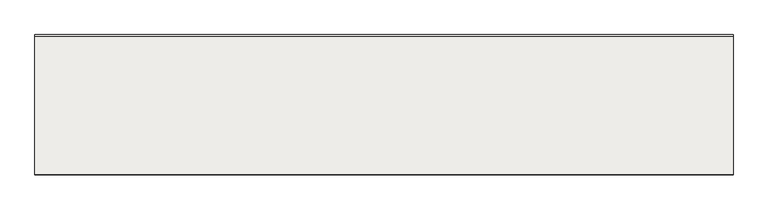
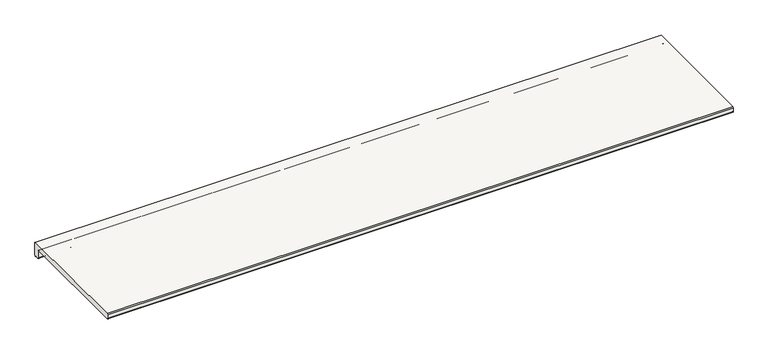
"""IFC4 building model written with IfcOpenShell, lengths in millimetres: slab geometry, ROSA GRES_L62 : Pieza L62_Tresor_Java_Anti-Slip."""

import ifcopenshell
import ifcopenshell.guid

model = None  # the IFC model being written
_history = None  # IfcOwnerHistory: only IFC2X3 demands one
_inside = {}  # id of a spatial element -> (the spatial element, [elements in it])
_under = {}  # id of a project, library or spatial element -> (it, [spatial elements below it])
_declared = {}  # id of a project -> (the project, [libraries it declares])
_typed = {}  # id of a type object -> (the type object, [elements of that type])
_made_of = {}  # id of a material, layer set ... -> (it, [elements and type objects made of it])


def new_model(schema):
    """Start an empty IFC model of exactly this schema.

    Asked for "IFC4X3", IfcOpenShell would pick the latest addendum, in which some entities
    have other attributes; the version numbers below select the first issue.
    IFC2X3 requires an IfcOwnerHistory on every rooted entity: one is made here for all.
    """
    global model, _history
    if schema == "IFC4X3":
        model = ifcopenshell.file(schema_version=(4, 3, 0, 0))
    else:
        model = ifcopenshell.file(schema=schema)
    _inside.clear()
    _under.clear()
    _declared.clear()
    _typed.clear()
    _made_of.clear()
    _history = None
    if model.schema == "IFC2X3":
        org = make("IfcOrganization", Name="unknown")
        user = make(
            "IfcPersonAndOrganization",
            ThePerson=make("IfcPerson", FamilyName="unknown"),
            TheOrganization=org,
        )
        app = make(
            "IfcApplication",
            ApplicationDeveloper=org,
            Version="unknown",
            ApplicationFullName="unknown",
            ApplicationIdentifier="unknown",
        )
        _history = make(
            "IfcOwnerHistory",
            OwningUser=user,
            OwningApplication=app,
            ChangeAction="ADDED",
            CreationDate=0,
        )
    return model


def make(cls, **values):
    """One entity of the class cls with the attributes given. An attribute that is None is left unset."""
    return model.create_entity(
        cls, **{name: value for name, value in values.items() if value is not None}
    )


def rooted(cls, **values):
    """An entity with a GlobalId (a new one), such as an element, a storey or a relation."""
    return make(cls, GlobalId=ifcopenshell.guid.new(), OwnerHistory=_history, **values)


def si_unit(unit_type, name, prefix=None):
    """IfcSIUnit, for example si_unit("LENGTHUNIT", "METRE", prefix="MILLI")."""
    return make("IfcSIUnit", UnitType=unit_type, Prefix=prefix, Name=name)


def assignment(units):
    """IfcUnitAssignment: the units of a project."""
    return None if units is None else make("IfcUnitAssignment", Units=units)


def point(xyz):
    """IfcCartesianPoint."""
    return None if xyz is None else make("IfcCartesianPoint", Coordinates=xyz)


def direction(xyz):
    """IfcDirection."""
    return None if xyz is None else make("IfcDirection", DirectionRatios=xyz)


def frame(location, z_axis=None, x_axis=None):
    """IfcAxis2Placement3D, a coordinate frame: its origin and axes. An axis left out is left unset."""
    return make(
        "IfcAxis2Placement3D",
        Location=point(location),
        Axis=direction(z_axis),
        RefDirection=direction(x_axis),
    )


def frame_2d(location, x_axis=None):
    """IfcAxis2Placement2D, a coordinate frame in the plane: its origin and x axis."""
    return make(
        "IfcAxis2Placement2D", Location=point(location), RefDirection=direction(x_axis)
    )


def origin():
    """The frame at (0, 0, 0) with its axes left unset."""
    return frame((0.0, 0.0, 0.0))


def place(relative_to, where):
    """IfcLocalPlacement: puts the frame where relative to a parent placement (None: the world)."""
    return make(
        "IfcLocalPlacement", PlacementRelTo=relative_to, RelativePlacement=where
    )


def context(
    kind, dimensions, precision=None, world=None, true_north=None, identifier=None
):
    """IfcGeometricRepresentationContext, for example the 3D "Model" context."""
    return make(
        "IfcGeometricRepresentationContext",
        ContextIdentifier=identifier,
        ContextType=kind,
        CoordinateSpaceDimension=dimensions,
        Precision=precision,
        WorldCoordinateSystem=world,
        TrueNorth=true_north,
    )


def project(units=None, contexts=None):
    """IfcProject with its units and contexts."""
    return rooted(
        "IfcProject",
        Name="project",
        RepresentationContexts=contexts,
        UnitsInContext=assignment(units),
    )


def spatial(cls, under=None, at=None, **own):
    """A site, building, storey or space (cls), placed at a placement, below another one or the project."""
    s = rooted(cls, ObjectPlacement=at, **own)
    if under is not None:
        _under.setdefault(under.id(), (under, []))[1].append(s)
    return s


def polyline(points):
    """IfcPolyline through the points."""
    return make("IfcPolyline", Points=[point(p) for p in points])


def circle_curve(where, radius):
    """IfcCircle in the frame where."""
    return make("IfcCircle", Position=where, Radius=radius)


def trimmed(basis, trim1, trim2, sense, master):
    """IfcTrimmedCurve: the piece of a basis curve between two trims."""
    return make(
        "IfcTrimmedCurve",
        BasisCurve=basis,
        Trim1=trim1,
        Trim2=trim2,
        SenseAgreement=sense,
        MasterRepresentation=master,
    )


def segment(curve, same_sense, transition):
    """IfcCompositeCurveSegment."""
    return make(
        "IfcCompositeCurveSegment",
        Transition=transition,
        SameSense=same_sense,
        ParentCurve=curve,
    )


def composite_curve(segments, self_intersect=None):
    """IfcCompositeCurve: segments joined end to end."""
    return make("IfcCompositeCurve", Segments=segments, SelfIntersect=self_intersect)


def outline(outer, holes=None, kind="AREA"):
    """IfcArbitraryClosedProfileDef: a profile drawn as a closed curve; with holes, ...WithVoids."""
    if holes is None:
        return make("IfcArbitraryClosedProfileDef", ProfileType=kind, OuterCurve=outer)
    return make(
        "IfcArbitraryProfileDefWithVoids",
        ProfileType=kind,
        OuterCurve=outer,
        InnerCurves=holes,
    )


def extrude(swept, where, along, depth):
    """IfcExtrudedAreaSolid: the profile swept, set in the frame where, extruded along a direction by depth."""
    return make(
        "IfcExtrudedAreaSolid",
        SweptArea=swept,
        Position=where,
        ExtrudedDirection=direction(along),
        Depth=depth,
    )


def shape(context_of_items, identifier, shape_type, items):
    """IfcShapeRepresentation: the items that make up one representation, for example the "Body"."""
    return make(
        "IfcShapeRepresentation",
        ContextOfItems=context_of_items,
        RepresentationIdentifier=identifier,
        RepresentationType=shape_type,
        Items=items,
    )


def source(mapping_origin, context_of_items, identifier, shape_type, items):
    """IfcRepresentationMap: a shape defined once, which mapped items show again and again."""
    return make(
        "IfcRepresentationMap",
        MappingOrigin=mapping_origin,
        MappedRepresentation=shape(context_of_items, identifier, shape_type, items),
    )


def transform(
    local_origin,
    x_axis=None,
    y_axis=None,
    z_axis=None,
    scale=None,
    scale2=None,
    scale3=None,
    uniform=True,
):
    """IfcCartesianTransformationOperator3D, or its non-uniform kind. x_axis, y_axis, z_axis: its Axis1, 2, 3."""
    if uniform:
        return make(
            "IfcCartesianTransformationOperator3D",
            Axis1=direction(x_axis),
            Axis2=direction(y_axis),
            LocalOrigin=point(local_origin),
            Scale=scale,
            Axis3=direction(z_axis),
        )
    return make(
        "IfcCartesianTransformationOperator3DnonUniform",
        Axis1=direction(x_axis),
        Axis2=direction(y_axis),
        LocalOrigin=point(local_origin),
        Scale=scale,
        Axis3=direction(z_axis),
        Scale2=scale2,
        Scale3=scale3,
    )


def mapped(mapping_source, mapping_target):
    """IfcMappedItem: shows the shape of a source again, moved by a transform."""
    return make(
        "IfcMappedItem", MappingSource=mapping_source, MappingTarget=mapping_target
    )


def made_of(thing, what):
    """Note that an element or type object is made of a material, layer set ...; save() writes the relation."""
    if what is not None:
        _made_of.setdefault(what.id(), (what, []))[1].append(thing)
    return thing


def element(
    cls,
    number,
    at=None,
    inside=None,
    cuts=None,
    type_object=None,
    material=None,
    context=None,
    identifier="Body",
    shape_type=None,
    held_by="IfcProductDefinitionShape",
    body=None,
    shapes=None,
    **own,
):
    """One element of the class cls, such as IfcWall. Its Tag is "e" and its number.

    at: its placement. inside: the storey or other place that contains it. cuts: it is an
    opening in that element (IfcRelVoidsElement). A single representation is given by context,
    identifier, shape_type and body (its items); several are given by shapes. held_by: the class
    of the entity that holds the representations. save() writes the other relations.
    """
    e = rooted(cls, Tag="e%d" % number, ObjectPlacement=at, **own)
    if body is not None:
        shapes = [shape(context, identifier, shape_type, body)]
    if shapes is not None:
        e.Representation = make(held_by, Representations=shapes)
    if inside is not None:
        _inside.setdefault(inside.id(), (inside, []))[1].append(e)
    if cuts is not None:
        rooted(
            "IfcRelVoidsElement", RelatingBuildingElement=cuts, RelatedOpeningElement=e
        )
    if type_object is not None:
        _typed.setdefault(type_object.id(), (type_object, []))[1].append(e)
    return made_of(e, material)


def aggregate(whole, parts):
    """IfcRelAggregates: a whole, such as a stair, and the parts it consists of."""
    return rooted("IfcRelAggregates", RelatingObject=whole, RelatedObjects=parts)


def save(model, path):
    """Write the relations noted so far, then the file.

    IfcRelAggregates (storeys below a building ...), IfcRelContainedInSpatialStructure (elements
    in a storey), IfcRelDefinesByType, IfcRelAssociatesMaterial and IfcRelDeclares: one each for
    every whole, place, type object, material and project.
    """
    for whole, parts in _under.values():
        aggregate(whole, parts)
    for where, things in _inside.values():
        rooted(
            "IfcRelContainedInSpatialStructure",
            RelatedElements=things,
            RelatingStructure=where,
        )
    for kind, things in _typed.values():
        rooted("IfcRelDefinesByType", RelatedObjects=things, RelatingType=kind)
    for what, things in _made_of.values():
        rooted("IfcRelAssociatesMaterial", RelatedObjects=things, RelatingMaterial=what)
    for by, libraries in _declared.values():
        rooted("IfcRelDeclares", RelatingContext=by, RelatedDefinitions=libraries)
    model.write(path)


def slab_c4381082(model_context):
    return source(origin(), model_context, "Body", "SweptSolid", [
        extrude(outline(composite_curve([segment(trimmed(circle_curve(frame_2d((-12.1001991, -35.1001991)), 1.8998009), [point((-12.1001991, -37.0))], [point((-14.0, -35.1001991))], False, "CARTESIAN"), True, "CONTINUOUS"), segment(polyline([(-14.0, -35.1001991), (-14.0, -16.5836242)]), True, "CONTINUOUS"), segment(trimmed(circle_curve(frame_2d((-16.6422322, -16.5836242)), 2.6422322), [point((-14.0, -16.5836242))], [point((-16.6422322, -13.9413919))], True, "CARTESIAN"), True, "CONTINUOUS"), segment(polyline([(-16.6422322, -13.9413919), (-315.5234432, -13.9413919)]), True, "CONTINUOUS"), segment(trimmed(circle_curve(frame_2d((-315.5234432, -12.4648352)), 1.4765568), [point((-315.5234432, -13.9413919))], [point((-317.0, -12.4648352))], False, "CARTESIAN"), True, "CONTINUOUS"), segment(polyline([(-317.0, -12.4648352), (-317.0, -2.5), (-315.5, 0.0), (-2.5, 0.0), (0.0, -2.5), (0.0, -34.5)]), True, "CONTINUOUS"), segment(trimmed(circle_curve(frame_2d((-2.5, -34.5)), 2.5), [point((0.0, -34.5))], [point((-2.5, -37.0))], False, "CARTESIAN"), True, "CONTINUOUS"), segment(polyline([(-2.5, -37.0), (-5.422949, -37.0)]), True, "CONTINUOUS"), segment(trimmed(circle_curve(frame_2d((-7.4142134, -37.0)), 1.9912643), [point((-5.422949, -37.0))], [point((-9.4054777, -37.0))], True, "CARTESIAN"), True, "CONTINUOUS"), segment(polyline([(-9.4054777, -37.0), (-12.1001991, -37.0)]), True, "CONTINUOUS")], self_intersect=False)), frame((0.0, 0.0, 0.0), z_axis=(1.0, 0.0, 0.0), x_axis=(0.0, 1.0, 0.0)), (0.0, 0.0, 1.0), 1576.0),
    ])


if __name__ == "__main__":
    model = new_model("IFC4")
    model_context = context("Model", 3, world=origin())
    ifc_project = project(units=[si_unit("LENGTHUNIT", "METRE", prefix="MILLI")], contexts=[model_context])
    site = spatial("IfcSite", under=ifc_project)
    building = spatial("IfcBuilding", under=site)
    placement = place(None, origin())
    slab_shape = slab_c4381082(model_context)
    element("IfcSlab", 1, ObjectType="ROSA GRES_L62 : Pieza L62_Tresor_Java_Anti-Slip", at=placement, inside=building, context=model_context, shape_type="MappedRepresentation", body=[
        mapped(slab_shape, transform((0.0, 0.0, 0.0), x_axis=(1.0, 0.0, 0.0), y_axis=(0.0, 1.0, 0.0), z_axis=(0.0, 0.0, 1.0))),
    ])
    save(model, "model.ifc")
